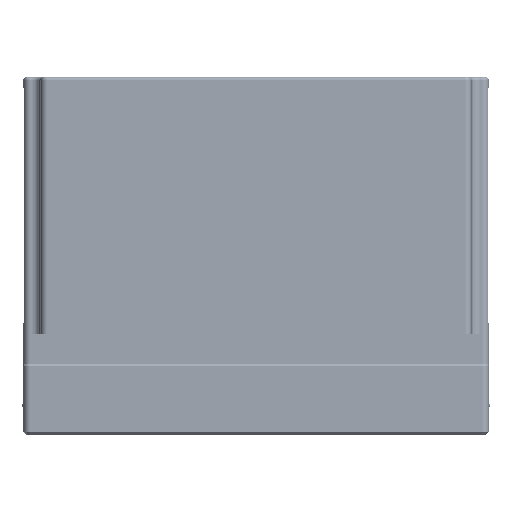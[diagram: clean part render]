
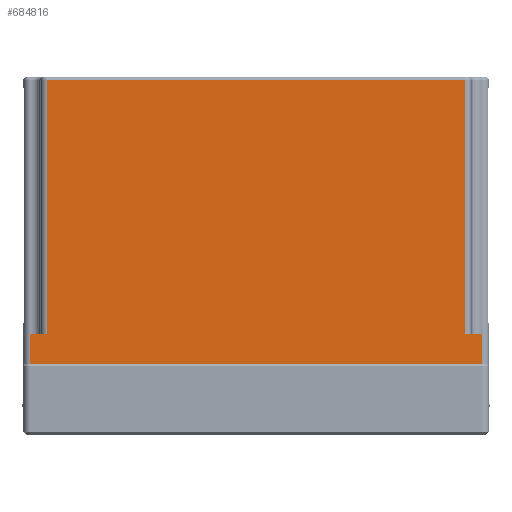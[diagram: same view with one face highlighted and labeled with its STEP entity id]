
A CAD part, front view. The second image highlights one B-rep face of the part: STEP entity #684816.
In plain terms, the highlighted planar face has unit normal (0, -1, 0).
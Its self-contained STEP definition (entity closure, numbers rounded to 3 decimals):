
#8544 = EDGE_CURVE ( 'NONE', #526869, #484268, #70357, .T. ) ;
#30999 = ORIENTED_EDGE ( 'NONE', *, *, #720211, .F. ) ;
#46166 = VECTOR ( 'NONE', #95528, 1000. ) ;
#55233 = CARTESIAN_POINT ( 'NONE',  ( -68.5, -31.75, 77.7 ) ) ;
#59032 = DIRECTION ( 'NONE',  ( 0., 0., -1. ) ) ;
#64077 = VECTOR ( 'NONE', #59032, 1000. ) ;
#70357 = LINE ( 'NONE', #139333, #695964 ) ;
#95175 = LINE ( 'NONE', #99414, #316142 ) ;
#95528 = DIRECTION ( 'NONE',  ( 0., 0., 1. ) ) ;
#96145 = CARTESIAN_POINT ( 'NONE',  ( -70.5, -31.75, 87. ) ) ;
#99414 = CARTESIAN_POINT ( 'NONE',  ( -68.5, -31.75, 87. ) ) ;
#136815 = CARTESIAN_POINT ( 'NONE',  ( -63.25, -31.75, 77.7 ) ) ;
#139333 = CARTESIAN_POINT ( 'NONE',  ( 0., -31.75, 77.7 ) ) ;
#158037 = VERTEX_POINT ( 'NONE', #55233 ) ;
#160156 = LINE ( 'NONE', #422848, #844032 ) ;
#160832 = DIRECTION ( 'NONE',  ( 1., 0., 0. ) ) ;
#167973 = ORIENTED_EDGE ( 'NONE', *, *, #381765, .F. ) ;
#186900 = CARTESIAN_POINT ( 'NONE',  ( -68.5, -31.75, 87. ) ) ;
#187466 = FACE_OUTER_BOUND ( 'NONE', #233017, .T. ) ;
#193871 = CARTESIAN_POINT ( 'NONE',  ( 63.25, -31.75, 77.7 ) ) ;
#195805 = EDGE_CURVE ( 'NONE', #484268, #215229, #422910, .T. ) ;
#198192 = VECTOR ( 'NONE', #725794, 1000. ) ;
#215229 = VERTEX_POINT ( 'NONE', #708091 ) ;
#233017 = EDGE_LOOP ( 'NONE', ( #649604, #696046, #366305, #807513, #551124, #167973, #585625, #30999 ) ) ;
#236628 = VECTOR ( 'NONE', #160832, 1000. ) ;
#273835 = EDGE_CURVE ( 'NONE', #564715, #158037, #95175, .T. ) ;
#286212 = CARTESIAN_POINT ( 'NONE',  ( 63.25, -31.75, 77.7 ) ) ;
#316142 = VECTOR ( 'NONE', #814591, 1000. ) ;
#321042 = CARTESIAN_POINT ( 'NONE',  ( 0., -31.75, 77.7 ) ) ;
#324769 = DIRECTION ( 'NONE',  ( 1., 0., 0. ) ) ;
#325192 = CARTESIAN_POINT ( 'NONE',  ( -70.5, -31.75, 87. ) ) ;
#333716 = LINE ( 'NONE', #321042, #489500 ) ;
#350492 = CARTESIAN_POINT ( 'NONE',  ( 63.25, -31.75, 1. ) ) ;
#354078 = CARTESIAN_POINT ( 'NONE',  ( 68.5, -31.75, 87. ) ) ;
#359066 = EDGE_CURVE ( 'NONE', #502384, #374150, #774241, .T. ) ;
#366305 = ORIENTED_EDGE ( 'NONE', *, *, #635603, .T. ) ;
#374150 = VERTEX_POINT ( 'NONE', #394549 ) ;
#381765 = EDGE_CURVE ( 'NONE', #564715, #215229, #750896, .T. ) ;
#390088 = CARTESIAN_POINT ( 'NONE',  ( 68.5, -31.75, 77.7 ) ) ;
#394549 = CARTESIAN_POINT ( 'NONE',  ( -63.25, -31.75, 1. ) ) ;
#398311 = DIRECTION ( 'NONE',  ( -1., 0., 0. ) ) ;
#399691 = AXIS2_PLACEMENT_3D ( 'NONE', #325192, #454370, #842201 ) ;
#422848 = CARTESIAN_POINT ( 'NONE',  ( -70.5, -31.75, 1. ) ) ;
#422910 = LINE ( 'NONE', #354078, #46166 ) ;
#454370 = DIRECTION ( 'NONE',  ( 0., 1., 0. ) ) ;
#484268 = VERTEX_POINT ( 'NONE', #390088 ) ;
#489500 = VECTOR ( 'NONE', #398311, 1000. ) ;
#502384 = VERTEX_POINT ( 'NONE', #136815 ) ;
#526869 = VERTEX_POINT ( 'NONE', #193871 ) ;
#544555 = LINE ( 'NONE', #286212, #198192 ) ;
#551124 = ORIENTED_EDGE ( 'NONE', *, *, #195805, .T. ) ;
#564715 = VERTEX_POINT ( 'NONE', #186900 ) ;
#585625 = ORIENTED_EDGE ( 'NONE', *, *, #273835, .T. ) ;
#588187 = VERTEX_POINT ( 'NONE', #350492 ) ;
#635603 = EDGE_CURVE ( 'NONE', #588187, #526869, #544555, .T. ) ;
#649151 = CARTESIAN_POINT ( 'NONE',  ( -63.25, -31.75, 87. ) ) ;
#649604 = ORIENTED_EDGE ( 'NONE', *, *, #359066, .T. ) ;
#684816 = ADVANCED_FACE ( 'NONE', ( #187466 ), #850629, .F. ) ;
#685622 = DIRECTION ( 'NONE',  ( 1., 0., 0. ) ) ;
#695964 = VECTOR ( 'NONE', #324769, 1000. ) ;
#696046 = ORIENTED_EDGE ( 'NONE', *, *, #731461, .T. ) ;
#708091 = CARTESIAN_POINT ( 'NONE',  ( 68.5, -31.75, 87. ) ) ;
#720211 = EDGE_CURVE ( 'NONE', #502384, #158037, #333716, .T. ) ;
#725794 = DIRECTION ( 'NONE',  ( 0., 0., 1. ) ) ;
#731461 = EDGE_CURVE ( 'NONE', #374150, #588187, #160156, .T. ) ;
#750896 = LINE ( 'NONE', #96145, #236628 ) ;
#774241 = LINE ( 'NONE', #649151, #64077 ) ;
#807513 = ORIENTED_EDGE ( 'NONE', *, *, #8544, .T. ) ;
#814591 = DIRECTION ( 'NONE',  ( 0., 0., -1. ) ) ;
#842201 = DIRECTION ( 'NONE',  ( 1., 0., 0. ) ) ;
#844032 = VECTOR ( 'NONE', #685622, 1000. ) ;
#850629 = PLANE ( 'NONE',  #399691 ) ;
